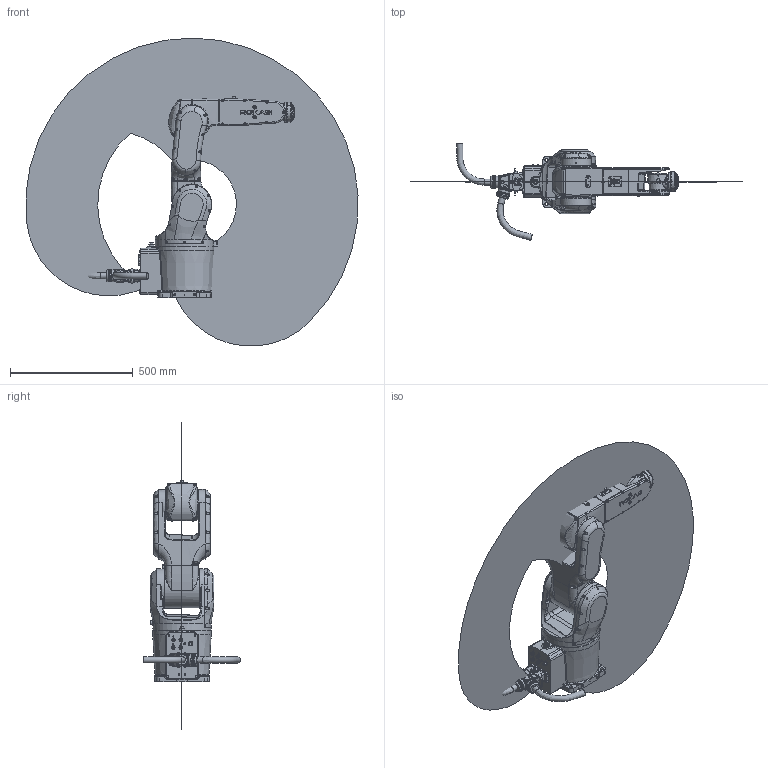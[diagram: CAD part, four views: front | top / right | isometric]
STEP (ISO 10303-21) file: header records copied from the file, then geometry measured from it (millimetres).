
FILE_DESCRIPTION(/* description */ (''),/* implementation_level */ '2;1');
FILE_NAME(/* name */ 'XB12s／_-R707-XBC5线束 简化模型(20220426).stp',/* time_stamp */ '2022-04-26T15:43:33+08:00',/* author */ (''),/* organization */ (''),/* preprocessor_version */ 'ST-DEVELOPER v16',/* originating_system */ 'SIEMENS PLM Software NX 10.0',/* authorisation */ '');
FILE_SCHEMA (('CONFIG_CONTROL_DESIGN'));
Products named in the file (9): XB7&12-3Dwork-A; XB12-shuchu-A; XB7&12-shouwan-A; XB7&12-xiaobiqian-Alogo; XB7&12-xiaobihou-A; XB7&12-dabi-A; XB7&12-yao-A; XB7&12-base-B; XB12s／_-R707-XBC5线束 \X2\7B805316
6A21578B\X0\(20220426)
Assembly tree (8 placements, depth 2):
  XB12s／_-R707-XBC5线束 \X2\7B805316
6A21578B\X0\(20220426)
    XB7&12-base-B
    XB7&12-yao-A
    XB7&12-dabi-A
    XB7&12-xiaobihou-A
    XB7&12-xiaobiqian-Alogo
    XB7&12-shouwan-A
    XB12-shuchu-A
    XB7&12-3Dwork-A
Bounding box: 1351.29 x 393.43 x 1252.93 mm (x, y, z)
Volume: 30610988.7 mm3; surface area: 2414505.7 mm2
Topology: 10 solids, 25 shells, 3825 faces, 9081 edges, 5458 vertices
Faces by surface type: plane 1329, cylinder 881, bspline 724, cone 367, torus 289, extrusion 201, sphere 34
Full cylindrical faces by diameter (mm): 2.874 x1, 3.3 x8, 4.2 x15, 4.75 x4, 4.826 x1, 5 x3, 5.1 x4, 5.13 x8, 5.5 x83, 6 x2, 6.725 x4, 7 x21, 8.5 x10, 9.5 x3, 13 x1, 13.5 x4, 14 x1, 15 x4, 18.5 x1, 20 x2, 22 x1, 25 x2, 40 x1, 41.226 x2, 45 x1, 47.5 x2, 49.55 x4, 50 x2, 55 x2, 59 x2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
Entity records: 148246 total; most frequent: CARTESIAN_POINT 68190, ORIENTED_EDGE 16856, DIRECTION 15005, EDGE_CURVE 8431, AXIS2_PLACEMENT_3D 5904, VERTEX_POINT 5290, EDGE_LOOP 4431, ADVANCED_FACE 3816
